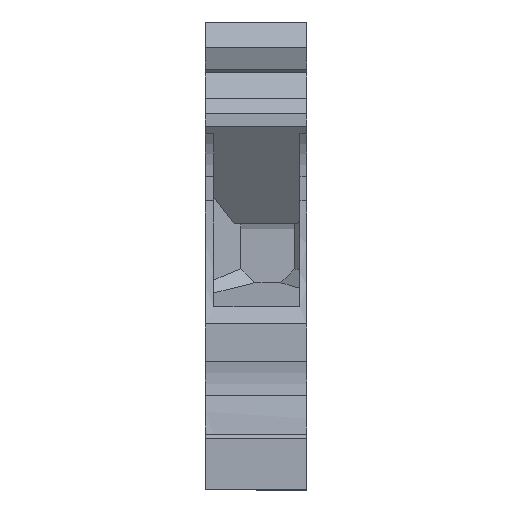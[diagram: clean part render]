
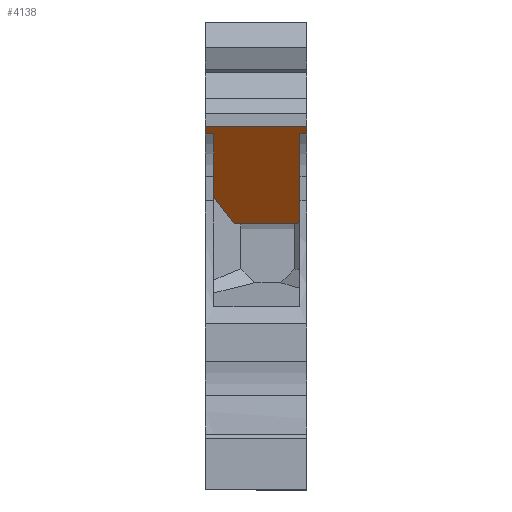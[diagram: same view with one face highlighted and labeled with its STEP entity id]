
A CAD part, front view. The second image highlights one B-rep face of the part: STEP entity #4138.
In plain terms, the highlighted planar face has unit normal (0, -0.793, -0.609).
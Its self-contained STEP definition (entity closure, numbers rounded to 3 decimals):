
#1154=CARTESIAN_POINT('',(10.15,2.2,36.426));
#1155=VERTEX_POINT('',#1154);
#1172=CARTESIAN_POINT('',(0.,2.2,36.426));
#1173=VERTEX_POINT('',#1172);
#1180=CARTESIAN_POINT('',(10.15,2.2,36.426));
#1181=DIRECTION('',(-1.,0.,0.));
#1182=VECTOR('',#1181,10.15);
#1183=LINE('',#1180,#1182);
#1184=EDGE_CURVE('',#1155,#1173,#1183,.T.);
#2560=CARTESIAN_POINT('',(9.45,2.804,35.639));
#2561=VERTEX_POINT('',#2560);
#2571=CARTESIAN_POINT('',(10.15,2.804,35.639));
#2572=VERTEX_POINT('',#2571);
#2573=CARTESIAN_POINT('',(10.15,2.804,35.639));
#2574=DIRECTION('',(-1.,0.,0.));
#2575=VECTOR('',#2574,0.7);
#2576=LINE('',#2573,#2575);
#2577=EDGE_CURVE('',#2572,#2561,#2576,.T.);
#2604=CARTESIAN_POINT('',(9.45,9.45,26.976));
#2605=VERTEX_POINT('',#2604);
#2635=CARTESIAN_POINT('',(9.45,2.804,35.639));
#2636=DIRECTION('',(0.,0.609,-0.793));
#2637=VECTOR('',#2636,10.919);
#2638=LINE('',#2635,#2637);
#2639=EDGE_CURVE('',#2561,#2605,#2638,.T.);
#3883=CARTESIAN_POINT('',(9.213,9.687,26.666));
#3884=VERTEX_POINT('',#3883);
#3894=CARTESIAN_POINT('',(9.213,9.687,26.666));
#3895=DIRECTION('',(0.52,-0.52,0.678));
#3896=VECTOR('',#3895,0.457);
#3897=LINE('',#3894,#3896);
#3898=EDGE_CURVE('',#3884,#2605,#3897,.T.);
#3966=CARTESIAN_POINT('',(2.887,9.687,26.666));
#3967=VERTEX_POINT('',#3966);
#3968=CARTESIAN_POINT('',(2.887,9.687,26.666));
#3969=DIRECTION('',(1.,0.,0.));
#3970=VECTOR('',#3969,6.325);
#3971=LINE('',#3968,#3970);
#3972=EDGE_CURVE('',#3967,#3884,#3971,.T.);
#4002=CARTESIAN_POINT('',(0.85,7.65,29.322));
#4003=VERTEX_POINT('',#4002);
#4004=CARTESIAN_POINT('',(2.887,9.687,26.666));
#4005=DIRECTION('',(-0.52,-0.52,0.678));
#4006=VECTOR('',#4005,3.919);
#4007=LINE('',#4004,#4006);
#4008=EDGE_CURVE('',#3967,#4003,#4007,.T.);
#4024=CARTESIAN_POINT('',(0.,2.804,35.639));
#4025=VERTEX_POINT('',#4024);
#4035=CARTESIAN_POINT('',(0.85,2.804,35.639));
#4036=VERTEX_POINT('',#4035);
#4037=CARTESIAN_POINT('',(0.85,2.804,35.639));
#4038=DIRECTION('',(-1.,0.,0.));
#4039=VECTOR('',#4038,0.85);
#4040=LINE('',#4037,#4039);
#4041=EDGE_CURVE('',#4036,#4025,#4040,.T.);
#4083=CARTESIAN_POINT('',(0.85,7.65,29.322));
#4084=DIRECTION('',(0.,-0.609,0.793));
#4085=VECTOR('',#4084,7.962);
#4086=LINE('',#4083,#4085);
#4087=EDGE_CURVE('',#4003,#4036,#4086,.T.);
#4111=CARTESIAN_POINT('',(5.075,5.944,31.546));
#4112=DIRECTION('',(0.,-0.609,0.793));
#4113=DIRECTION('',(0.,-0.793,-0.609));
#4114=AXIS2_PLACEMENT_3D('',#4111,#4113,#4112);
#4115=PLANE('',#4114);
#4116=ORIENTED_EDGE('',*,*,#3898,.T.);
#4117=ORIENTED_EDGE('',*,*,#2639,.F.);
#4118=ORIENTED_EDGE('',*,*,#2577,.F.);
#4119=CARTESIAN_POINT('',(10.15,2.804,35.639));
#4120=DIRECTION('',(0.,-0.609,0.793));
#4121=VECTOR('',#4120,0.992);
#4122=LINE('',#4119,#4121);
#4123=EDGE_CURVE('',#2572,#1155,#4122,.T.);
#4124=ORIENTED_EDGE('E411',*,*,#4123,.T.);
#4125=ORIENTED_EDGE('E411',*,*,#1184,.T.);
#4126=CARTESIAN_POINT('',(0.,2.2,36.426));
#4127=DIRECTION('',(0.,0.609,-0.793));
#4128=VECTOR('',#4127,0.992);
#4129=LINE('',#4126,#4128);
#4130=EDGE_CURVE('',#1173,#4025,#4129,.T.);
#4131=ORIENTED_EDGE('E412',*,*,#4130,.T.);
#4132=ORIENTED_EDGE('E412',*,*,#4041,.F.);
#4133=ORIENTED_EDGE('E412',*,*,#4087,.F.);
#4134=ORIENTED_EDGE('E412',*,*,#4008,.F.);
#4135=ORIENTED_EDGE('E412',*,*,#3972,.T.);
#4136=EDGE_LOOP('',(#4116,#4117,#4118,#4124,#4125,#4131,#4132,#4133,#4134,#4135));
#4137=FACE_OUTER_BOUND('',#4136,.T.);
#4138=ADVANCED_FACE('F138',(#4137),#4115,.T.);
